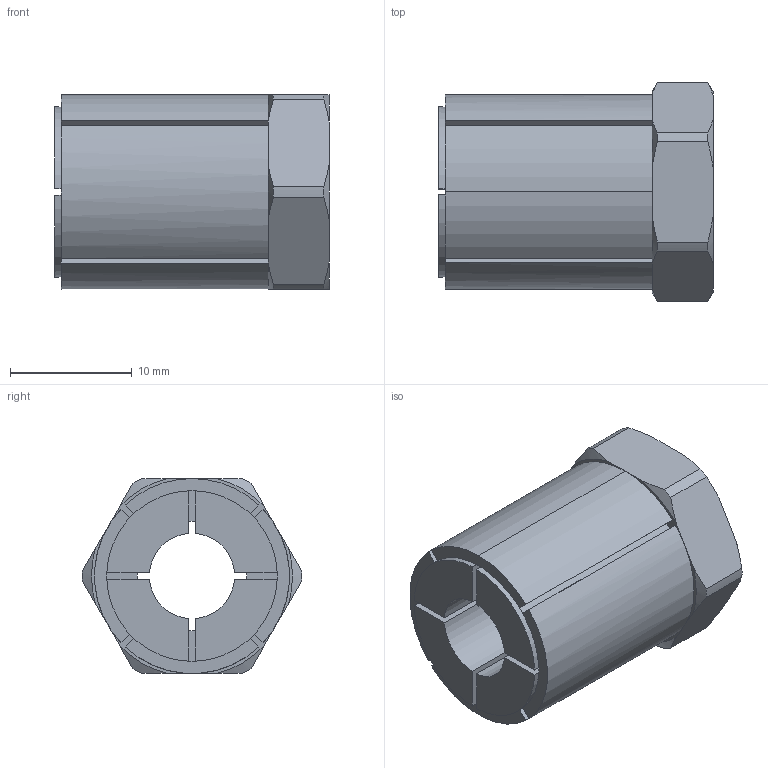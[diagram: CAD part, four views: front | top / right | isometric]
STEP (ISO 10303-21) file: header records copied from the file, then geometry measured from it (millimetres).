
FILE_DESCRIPTION (( 'STEP AP203' ), '1' );
FILE_NAME ('KBS 58 - 7 x 16.STEP', '2015-07-05T20:02:44', ( '' ), ( '' ), 'SwSTEP 2.0', 'SolidWorks 2010', '' );
FILE_SCHEMA (( 'CONFIG_CONTROL_DESIGN' ));
Length unit declared in the file: millimetre
Products named in the file (1): KBS 58 - 7 x 16
Bounding box: 22.5 x 18 x 16 mm (x, y, z)
Volume: 3530 mm3; surface area: 2749.8 mm2
Topology: 1 solids, 1 shells, 84 faces, 231 edges, 149 vertices
Faces by surface type: plane 42, cylinder 26, cone 16
Entity records: 2841 total; most frequent: CARTESIAN_POINT 609, ORIENTED_EDGE 462, DIRECTION 454, EDGE_CURVE 231, AXIS2_PLACEMENT_3D 170, VERTEX_POINT 149, VECTOR 114, LINE 114
